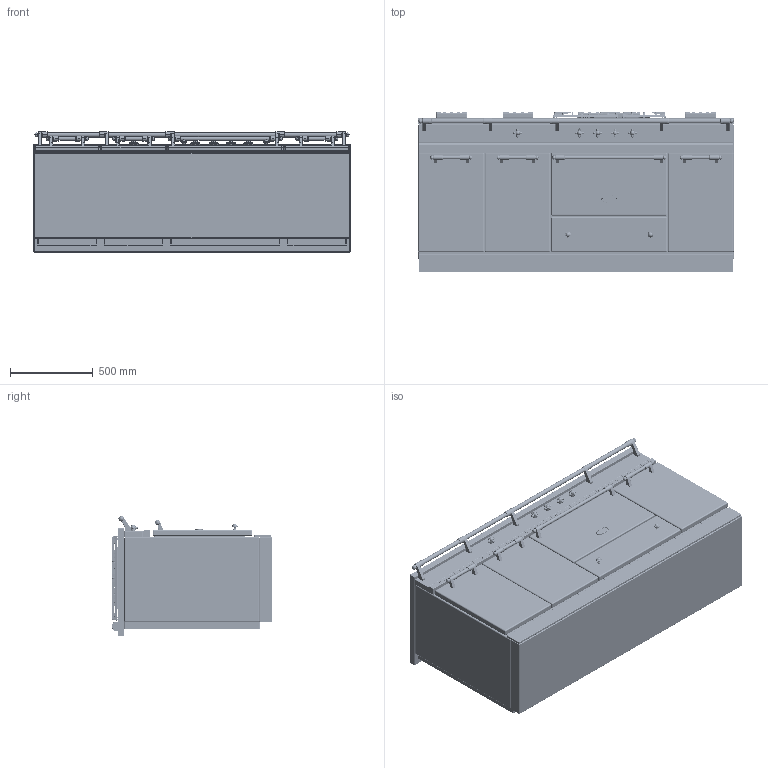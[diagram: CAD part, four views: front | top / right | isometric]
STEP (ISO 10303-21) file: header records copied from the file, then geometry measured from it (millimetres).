
FILE_DESCRIPTION((''),'2;1');
FILE_NAME('LG1932G_ASM','2021-12-02T16:09:54',('r.avril'),(''),'CREO PARAMETRIC BY PTC INC, 2017260','CREO PARAMETRIC BY PTC INC, 2017260','');
FILE_SCHEMA(('AP203_CONFIGURATION_CONTROLLED_3D_DESIGN_OF_MECHANICAL_PARTS_AND_ASSEMBLIES_MIM_LF { 1 0 10303 403 2 1 2 }'));
Products named in the file (28): BASE_EXPORT_FONTENAY_LG1931G; 65650003; 65650004; 65650006; 65650007; 6531940; 6531941; 6531943; 65049009; 65650001; 6538399; 1931942; 65080022_AF0; 6531942_ASM; BASE_EXPORT_CITEAUX_LG1932G_ASM; TABLE_1900G_CLASSIQUE_3_FEUX; 5KW; 1_5KW; 3KW; 6537025; 65149005; 90000488_ASM; 6537023; 90000565_ASM; CHEMINEE_2020_LG371_EXPORT_STEP; CHEMINEE_2020_LG182_EXPORT_STEP; TABLE_1900G_CLASSIQUE_3_FEUX_ASM; LG1932G_ASM
Assembly tree (49 placements, depth 4):
  LG1932G_ASM
    BASE_EXPORT_CITEAUX_LG1932G_ASM
      BASE_EXPORT_FONTENAY_LG1931G
      65650003
      65650004
      65650006
      65650007  x2
      6531940  x4
      6531941  x4
      6531943  x2
      65049009
      65650001
      6531942_ASM  x5
        6538399
        1931942
        65080022_AF0
    TABLE_1900G_CLASSIQUE_3_FEUX_ASM
      TABLE_1900G_CLASSIQUE_3_FEUX
      5KW
      1_5KW
      3KW
      90000488_ASM  x2
        6537025
        65149005
      90000565_ASM
        6537023
        65149005  x4
      CHEMINEE_2020_LG371_EXPORT_STEP
      CHEMINEE_2020_LG182_EXPORT_STEP  x3
Bounding box: 1905 x 965 x 724 mm (x, y, z)
Volume: 697456504.7 mm3; surface area: 16383914.8 mm2
Topology: 65 solids, 80 shells, 7126 faces, 18415 edges, 11428 vertices
Faces by surface type: plane 2874, cylinder 2390, bspline 851, torus 326, cone 281, sphere 222, extrusion 162, revolution 20
Entity records: 175553 total; most frequent: CARTESIAN_POINT 52542, ORIENTED_EDGE 21174, DIRECTION 19648, EDGE_CURVE 10601, AXIS2_PLACEMENT_3D 6826, VERTEX_POINT 6584, VECTOR 5909, LINE 5859
